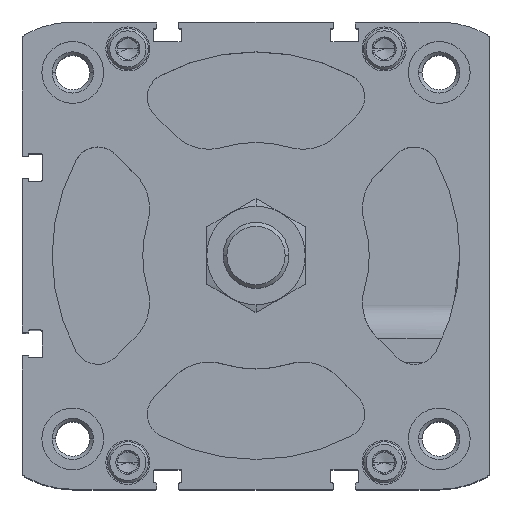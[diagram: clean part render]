
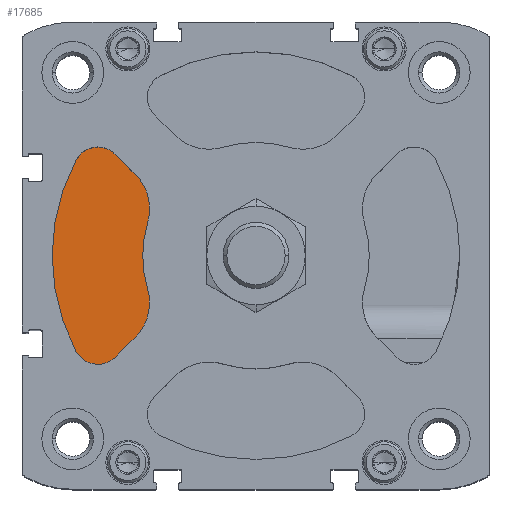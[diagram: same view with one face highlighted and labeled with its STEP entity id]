
A CAD part, top view. The second image highlights one B-rep face of the part: STEP entity #17685.
In plain terms, the highlighted planar face has unit normal (0, 0, 1).
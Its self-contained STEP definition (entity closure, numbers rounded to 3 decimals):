
#1343 = EDGE_CURVE ( 'NONE', #5064, #17296, #6971, .T. ) ;
#1582 = EDGE_CURVE ( 'NONE', #5487, #5064, #14615, .T. ) ;
#1596 = CARTESIAN_POINT ( 'NONE',  ( -34.181, -24.635, -18.8 ) ) ;
#1779 = DIRECTION ( 'NONE',  ( 0., 0., 1. ) ) ;
#2077 = DIRECTION ( 'NONE',  ( 0., 0., 1. ) ) ;
#2736 = DIRECTION ( 'NONE',  ( 0., 0., 1. ) ) ;
#3226 = DIRECTION ( 'NONE',  ( 0., 0., 1. ) ) ;
#3364 = CARTESIAN_POINT ( 'NONE',  ( 0., 0., -18.8 ) ) ;
#4026 = ORIENTED_EDGE ( 'NONE', *, *, #6750, .T. ) ;
#4123 = DIRECTION ( 'NONE',  ( 0., 0., 1. ) ) ;
#4384 = VERTEX_POINT ( 'NONE', #12985 ) ;
#4437 = AXIS2_PLACEMENT_3D ( 'NONE', #21122, #12297, #10587 ) ;
#4611 = DIRECTION ( 'NONE',  ( 0., 1., 0. ) ) ;
#4926 = AXIS2_PLACEMENT_3D ( 'NONE', #20763, #22038, #12053 ) ;
#5033 = FACE_OUTER_BOUND ( 'NONE', #10280, .T. ) ;
#5064 = VERTEX_POINT ( 'NONE', #14616 ) ;
#5334 = CARTESIAN_POINT ( 'NONE',  ( 0., 0., -18.8 ) ) ;
#5487 = VERTEX_POINT ( 'NONE', #21703 ) ;
#5713 = ORIENTED_EDGE ( 'NONE', *, *, #1343, .T. ) ;
#6166 = CIRCLE ( 'NONE', #15660, 6. ) ;
#6647 = CARTESIAN_POINT ( 'NONE',  ( -38.424, -20.393, -18.8 ) ) ;
#6720 = CIRCLE ( 'NONE', #13681, 27.5 ) ;
#6750 = EDGE_CURVE ( 'NONE', #17213, #17584, #17140, .T. ) ;
#6934 = EDGE_CURVE ( 'NONE', #10223, #4384, #9772, .T. ) ;
#6971 = LINE ( 'NONE', #19227, #20870 ) ;
#7157 = DIRECTION ( 'NONE',  ( 0., 0., 1. ) ) ;
#7466 = CIRCLE ( 'NONE', #4926, 12. ) ;
#7594 = VECTOR ( 'NONE', #13297, 1000. ) ;
#7926 = EDGE_CURVE ( 'NONE', #17296, #13412, #12846, .T. ) ;
#8566 = DIRECTION ( 'NONE',  ( -0.707, 0.707, 0. ) ) ;
#8791 = CARTESIAN_POINT ( 'NONE',  ( -26.345, -7.885, -18.8 ) ) ;
#9002 = ORIENTED_EDGE ( 'NONE', *, *, #12621, .F. ) ;
#9066 = CARTESIAN_POINT ( 'NONE',  ( -38.424, 26.393, -18.8 ) ) ;
#9731 = EDGE_CURVE ( 'NONE', #17584, #10223, #21312, .T. ) ;
#9772 = LINE ( 'NONE', #20410, #7594 ) ;
#9859 = PLANE ( 'NONE',  #17762 ) ;
#10223 = VERTEX_POINT ( 'NONE', #1596 ) ;
#10280 = EDGE_LOOP ( 'NONE', ( #4026, #19443, #15438, #18813, #9002, #19791, #5713, #20290, #12441 ) ) ;
#10587 = DIRECTION ( 'NONE',  ( 0., 1., 0. ) ) ;
#10602 = DIRECTION ( 'NONE',  ( 0., 1., 0. ) ) ;
#11572 = CARTESIAN_POINT ( 'NONE',  ( -43.724, -23.205, -18.8 ) ) ;
#12053 = DIRECTION ( 'NONE',  ( 0., 1., 0. ) ) ;
#12297 = DIRECTION ( 'NONE',  ( 0., 0., 1. ) ) ;
#12441 = ORIENTED_EDGE ( 'NONE', *, *, #12535, .T. ) ;
#12474 = DIRECTION ( 'NONE',  ( 1., 0., 0. ) ) ;
#12484 = CARTESIAN_POINT ( 'NONE',  ( -38.424, 20.393, -18.8 ) ) ;
#12535 = EDGE_CURVE ( 'NONE', #13412, #17213, #6166, .T. ) ;
#12621 = EDGE_CURVE ( 'NONE', #5487, #19171, #6720, .T. ) ;
#12846 = CIRCLE ( 'NONE', #4437, 6. ) ;
#12930 = EDGE_CURVE ( 'NONE', #4384, #19171, #7466, .T. ) ;
#12985 = CARTESIAN_POINT ( 'NONE',  ( -29.356, -19.81, -18.8 ) ) ;
#13221 = CARTESIAN_POINT ( 'NONE',  ( -34.181, 24.635, -18.8 ) ) ;
#13297 = DIRECTION ( 'NONE',  ( 0.707, 0.707, 0. ) ) ;
#13412 = VERTEX_POINT ( 'NONE', #9066 ) ;
#13681 = AXIS2_PLACEMENT_3D ( 'NONE', #5334, #7157, #10602 ) ;
#14615 = CIRCLE ( 'NONE', #18292, 12. ) ;
#14616 = CARTESIAN_POINT ( 'NONE',  ( -29.356, 19.81, -18.8 ) ) ;
#15438 = ORIENTED_EDGE ( 'NONE', *, *, #6934, .T. ) ;
#15467 = CARTESIAN_POINT ( 'NONE',  ( -43.724, 23.205, -18.8 ) ) ;
#15660 = AXIS2_PLACEMENT_3D ( 'NONE', #12484, #4123, #18087 ) ;
#16803 = CARTESIAN_POINT ( 'NONE',  ( -37.842, 11.325, -18.8 ) ) ;
#16836 = CARTESIAN_POINT ( 'NONE',  ( 0., 0., -18.8 ) ) ;
#17140 = CIRCLE ( 'NONE', #22256, 49.5 ) ;
#17213 = VERTEX_POINT ( 'NONE', #15467 ) ;
#17296 = VERTEX_POINT ( 'NONE', #13221 ) ;
#17584 = VERTEX_POINT ( 'NONE', #11572 ) ;
#17685 = ADVANCED_FACE ( 'NONE', ( #5033 ), #9859, .T. ) ;
#17762 = AXIS2_PLACEMENT_3D ( 'NONE', #16836, #2077, #12474 ) ;
#18087 = DIRECTION ( 'NONE',  ( 0., 1., 0. ) ) ;
#18292 = AXIS2_PLACEMENT_3D ( 'NONE', #16803, #2736, #20025 ) ;
#18813 = ORIENTED_EDGE ( 'NONE', *, *, #12930, .T. ) ;
#19171 = VERTEX_POINT ( 'NONE', #8791 ) ;
#19227 = CARTESIAN_POINT ( 'NONE',  ( -29.356, 19.81, -18.8 ) ) ;
#19443 = ORIENTED_EDGE ( 'NONE', *, *, #9731, .T. ) ;
#19791 = ORIENTED_EDGE ( 'NONE', *, *, #1582, .T. ) ;
#20025 = DIRECTION ( 'NONE',  ( 0., 1., 0. ) ) ;
#20290 = ORIENTED_EDGE ( 'NONE', *, *, #7926, .T. ) ;
#20410 = CARTESIAN_POINT ( 'NONE',  ( -34.181, -24.635, -18.8 ) ) ;
#20763 = CARTESIAN_POINT ( 'NONE',  ( -37.842, -11.325, -18.8 ) ) ;
#20769 = DIRECTION ( 'NONE',  ( 0., 1., 0. ) ) ;
#20870 = VECTOR ( 'NONE', #8566, 1000. ) ;
#21122 = CARTESIAN_POINT ( 'NONE',  ( -38.424, 20.393, -18.8 ) ) ;
#21312 = CIRCLE ( 'NONE', #21695, 6. ) ;
#21695 = AXIS2_PLACEMENT_3D ( 'NONE', #6647, #3226, #4611 ) ;
#21703 = CARTESIAN_POINT ( 'NONE',  ( -26.345, 7.885, -18.8 ) ) ;
#22038 = DIRECTION ( 'NONE',  ( 0., 0., 1. ) ) ;
#22256 = AXIS2_PLACEMENT_3D ( 'NONE', #3364, #1779, #20769 ) ;
